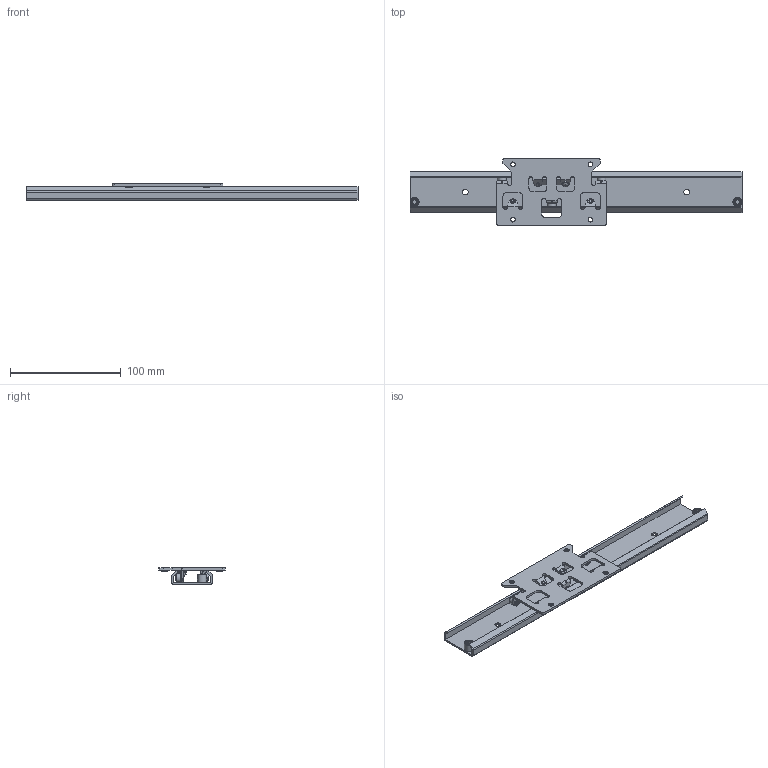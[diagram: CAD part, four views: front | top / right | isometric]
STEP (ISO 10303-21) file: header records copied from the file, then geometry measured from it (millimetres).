
FILE_DESCRIPTION((''),'1');
FILE_NAME('H:/図庫/国内ﾕﾆｯﾄ/ｽﾗｲﾄﾞ/ホームページ用ＣＡＤ図面/3D/37SW/stp', '2018-10-22T23:29:44',(''), (''), 'KCM Version 1.1.1442.0', 'Kubotek KeyCreator', '');
FILE_SCHEMA(('AUTOMOTIVE_DESIGN'));
Length unit declared in the file: millimetre
Bounding box: 300 x 60 x 14.8 mm (x, y, z)
Surface area: 52512.9 mm2 (no closed solid volume)
Topology: 0 solids, 603 shells, 603 faces, 2371 edges, 2070 vertices
Faces by surface type: plane 248, cone 170, cylinder 130, torus 48, bspline 6, sphere 1
Full cylindrical faces by diameter (mm): 2.3 x6, 2.44 x7, 3 x21, 3.5 x1, 4 x7, 4.03 x6, 4.5 x6, 5 x6, 5.5 x2, 5.6 x3, 6 x5, 8 x6, 8.2 x2
Entity records: 26181 total; most frequent: CARTESIAN_POINT 5372, DIRECTION 4677, ORIENTED_EDGE 2672, EDGE_CURVE 2370, VERTEX_POINT 2063, AXIS2_PLACEMENT_3D 1824, CIRCLE 1192, VECTOR 1029
